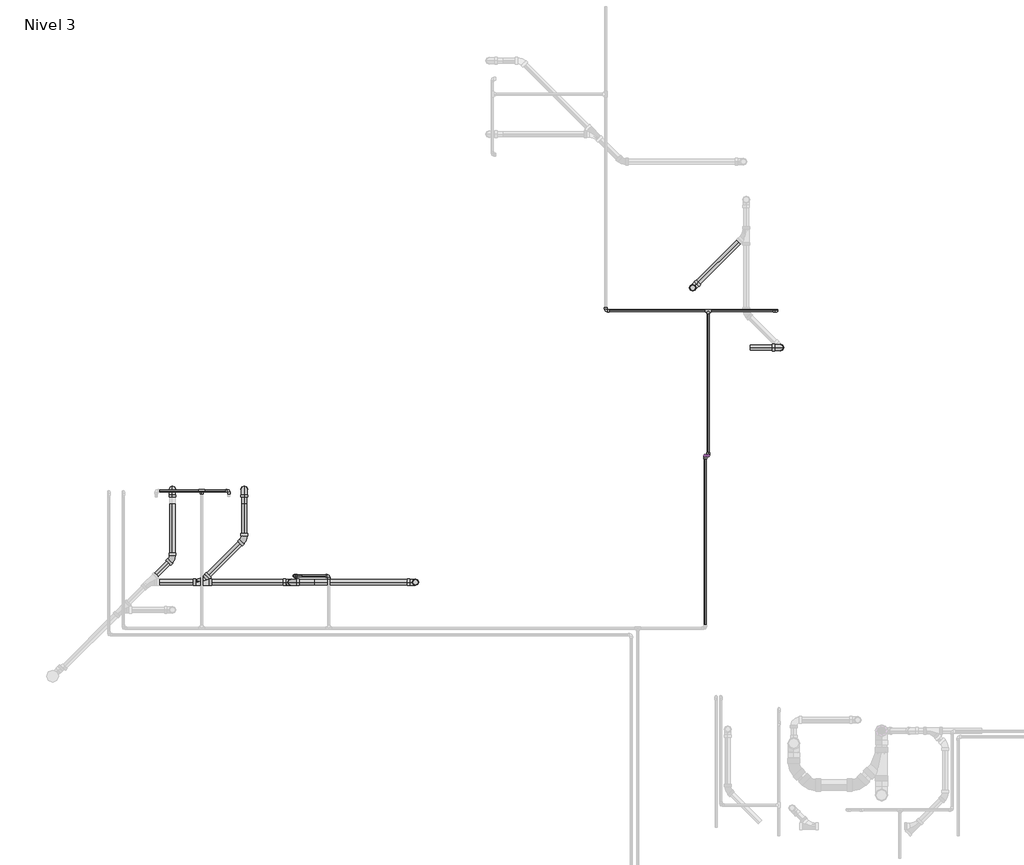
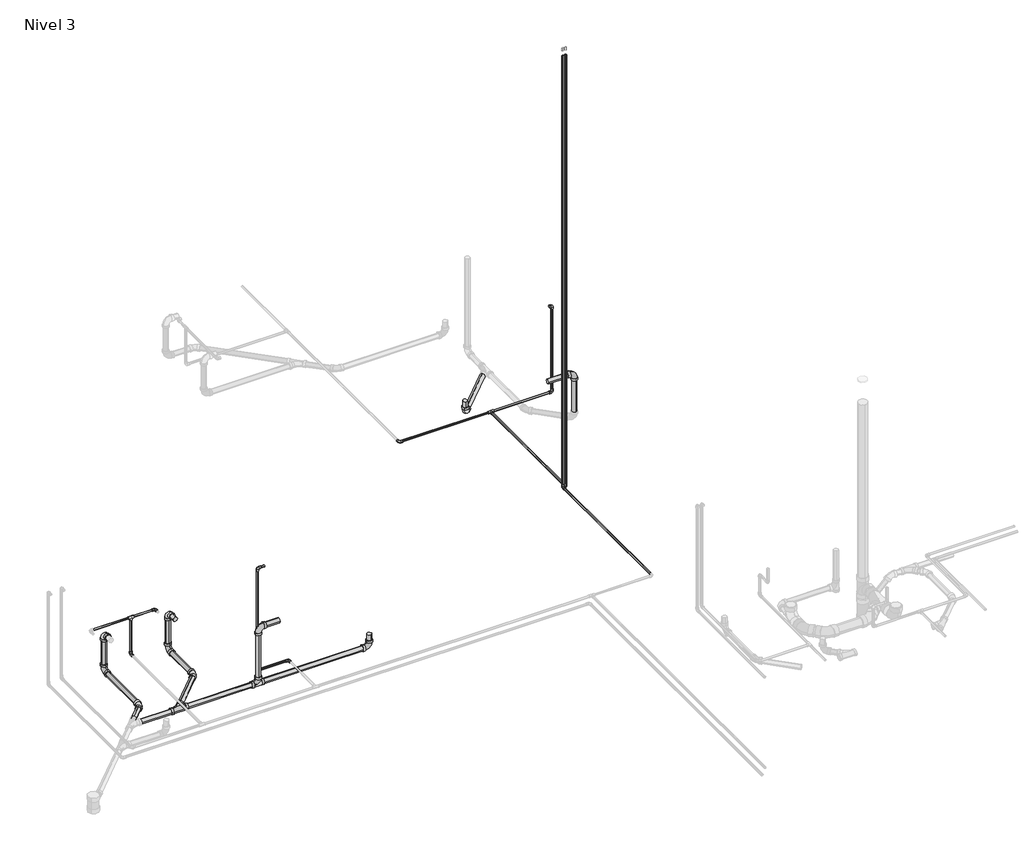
# One storey, part 5 of 9: 32 pipe segments, 24 pipe fittings.
"""IFC4 building model written with IfcOpenShell, lengths in millimetres."""

from ifc_helpers import new_model, si_unit, point, frame, frame_2d, origin, place, context, project, spatial, circle_curve, trimmed, segment, composite_curve, outline, extrude, transform, mapped, element, save
from components import pipe_fitting_ab418b84, pipe_fitting_0163322b, pipe_fitting_6ef1482d, m_codo_pvc_serie_40_9ad74631, m_codo_pvc_serie_40_dwv1_5c0ec739, m_codo_pvc_serie_40_dwv1_6f1a2495

model = new_model("IFC4")

# Units and contexts
model_context = context("Model", 3, world=origin())
ifc_project = project(units=[si_unit("LENGTHUNIT", "METRE", prefix="MILLI")], contexts=[model_context])

# Site, building, storey
site = spatial("IfcSite", under=ifc_project)
building = spatial("IfcBuilding", under=site)
storey = spatial("IfcBuildingStorey", under=building, Name="Nivel 3", Elevation=5450.0)

# Pipe fittings
placement = place(None, origin())
pipe_fitting_shape = pipe_fitting_ab418b84(model_context)
element("IfcPipeFitting", 1, ObjectType="M_Te - PVC - Serie 40 : Estándar", at=placement, inside=storey, context=model_context, shape_type="MappedRepresentation", body=[
    mapped(pipe_fitting_shape, transform((411.6630441, 9037.0181394, 5850.0), x_axis=(-1.0, 0.0, 0.0), y_axis=(0.0, 0.0, 1.0), z_axis=(0.0, 1.0, 0.0))),
])
element("IfcPipeFitting", 2, ObjectType="M_Te - PVC - Serie 40 : Estándar", at=placement, inside=storey, context=model_context, shape_type="MappedRepresentation", body=[
    mapped(pipe_fitting_shape, transform((5642.0674476, 10897.0181394, 5400.0), x_axis=(1.0, 0.0, 0.0), y_axis=(0.0, 1.0, 0.0), z_axis=(0.0, 0.0, 1.0))),
])
pipe_fitting_2_shape = pipe_fitting_0163322b(model_context)
element("IfcPipeFitting", 3, ObjectType="M_Sanitario con te de reducción - PVC - Serie 40 - DWV : Estándar", at=placement, inside=storey, context=model_context, shape_type="MappedRepresentation", body=[
    mapped(pipe_fitting_2_shape, transform((406.2028878, 8091.4220022, 5300.0), x_axis=(1.0, 0.0, 0.0), y_axis=(0.0, -1.0, 0.0), z_axis=(0.0, 0.0, -1.0))),
])
pipe_fitting_3_shape = pipe_fitting_6ef1482d(model_context)
element("IfcPipeFitting", 4, ObjectType="M_Sanitario con te de reducción - PVC - Serie 40 - DWV : Estándar", at=placement, inside=storey, context=model_context, shape_type="MappedRepresentation", body=[
    mapped(pipe_fitting_3_shape, transform((1335.9354338, 8091.4220022, 5300.0), x_axis=(1.0, 0.0, 0.0), y_axis=(0.0, 0.0, -1.0), z_axis=(0.0, 1.0, 0.0))),
])
m_codo_pvc_serie_40_shape = m_codo_pvc_serie_40_9ad74631(model_context)
element("IfcPipeFitting", 5, ObjectType="M_Codo - PVC - Serie 40 : Estándar", at=placement, inside=storey, context=model_context, shape_type="MappedRepresentation", body=[
    mapped(m_codo_pvc_serie_40_shape, transform((1725.1353284, 8157.0181394, 5400.0), x_axis=(0.0, 1.0, 0.0), y_axis=(-1.0, 0.0, 0.0), z_axis=(0.0, 0.0, 1.0))),
])
element("IfcPipeFitting", 6, ObjectType="M_Codo - PVC - Serie 40 : Estándar", at=placement, inside=storey, context=model_context, shape_type="MappedRepresentation", body=[
    mapped(m_codo_pvc_serie_40_shape, transform((1365.1353284, 8157.0181394, 5400.0), x_axis=(-1.0, 0.0, 0.0), y_axis=(0.0, 0.0, 1.0), z_axis=(0.0, 1.0, 0.0))),
])
element("IfcPipeFitting", 7, ObjectType="M_Codo - PVC - Serie 40 : Estándar", at=placement, inside=storey, context=model_context, shape_type="MappedRepresentation", body=[
    mapped(m_codo_pvc_serie_40_shape, transform((1365.1353284, 8157.0181394, 6650.0), x_axis=(0.0, 0.0, 1.0), y_axis=(1.0, 0.0, 0.0), z_axis=(0.0, 1.0, 0.0))),
])
element("IfcPipeFitting", 8, ObjectType="M_Codo - PVC - Serie 40 : Estándar", at=placement, inside=storey, context=model_context, shape_type="MappedRepresentation", body=[
    mapped(m_codo_pvc_serie_40_shape, transform((411.6630441, 9037.0181394, 5400.0), x_axis=(0.0, 1.0, 0.0), y_axis=(0.0, 0.0, 1.0), z_axis=(1.0, 0.0, 0.0))),
])
element("IfcPipeFitting", 9, ObjectType="M_Codo - PVC - Serie 40 : Estándar", at=placement, inside=storey, context=model_context, shape_type="MappedRepresentation", body=[
    mapped(m_codo_pvc_serie_40_shape, transform((691.6630441, 9037.0181394, 5850.0), x_axis=(0.0, 1.0, 0.0), y_axis=(-1.0, 0.0, 0.0), z_axis=(0.0, 0.0, 1.0))),
])
element("IfcPipeFitting", 10, ObjectType="M_Codo - PVC - Serie 40 : Estándar", at=placement, inside=storey, context=model_context, shape_type="MappedRepresentation", body=[
    mapped(m_codo_pvc_serie_40_shape, transform((4584.5674476, 10897.0181394, 5400.0), x_axis=(0.0, -1.0, 0.0), y_axis=(1.0, 0.0, 0.0), z_axis=(0.0, 0.0, 1.0))),
])
element("IfcPipeFitting", 11, ObjectType="M_Codo - PVC - Serie 40 : Estándar", at=placement, inside=storey, context=model_context, shape_type="MappedRepresentation", body=[
    mapped(m_codo_pvc_serie_40_shape, transform((6348.7776039, 10897.0181394, 5400.0), x_axis=(1.0, 0.0, 0.0), y_axis=(0.0, 0.0, 1.0), z_axis=(0.0, -1.0, 0.0))),
])
element("IfcPipeFitting", 12, ObjectType="M_Codo - PVC - Serie 40 : Estándar", at=placement, inside=storey, context=model_context, shape_type="MappedRepresentation", body=[
    mapped(m_codo_pvc_serie_40_shape, transform((6348.7776039, 10897.0181394, 6450.0), x_axis=(0.0, 0.0, 1.0), y_axis=(-1.0, 0.0, 0.0), z_axis=(0.0, -1.0, 0.0))),
])
element("IfcPipeFitting", 13, ObjectType="M_Codo - PVC - Serie 40 : Estándar", at=placement, inside=storey, context=model_context, shape_type="MappedRepresentation", body=[
    mapped(m_codo_pvc_serie_40_shape, transform((5611.6630441, 9399.5181394, 5400.0), x_axis=(0.0, 1.0, 0.0), y_axis=(0.0, 0.0, 1.0), z_axis=(1.0, 0.0, 0.0))),
])
element("IfcPipeFitting", 14, ObjectType="M_Codo - PVC - Serie 40 : Estándar", at=placement, inside=storey, context=model_context, shape_type="MappedRepresentation", body=[
    mapped(m_codo_pvc_serie_40_shape, transform((5642.0674476, 9399.5181394, 5400.0), x_axis=(0.0, -1.0, 0.0), y_axis=(0.0, 0.0, 1.0), z_axis=(-1.0, 0.0, 0.0))),
])
m_codo_pvc_serie_40_dwv1_shape = m_codo_pvc_serie_40_dwv1_5c0ec739(model_context)
element("IfcPipeFitting", 15, ObjectType="M_Codo - PVC - Serie 40 - DWV1 : Estándar 2", at=placement, inside=storey, context=model_context, shape_type="MappedRepresentation", body=[
    mapped(m_codo_pvc_serie_40_dwv1_shape, transform((6387.7966771, 10516.9594307, 5850.0), x_axis=(1.0, 0.0, 0.0), y_axis=(0.0, 0.0, -1.0), z_axis=(0.0, 1.0, 0.0))),
])
element("IfcPipeFitting", 16, ObjectType="M_Codo - PVC - Serie 40 - DWV1 : Estándar 2", at=placement, inside=storey, context=model_context, shape_type="MappedRepresentation", body=[
    mapped(m_codo_pvc_serie_40_dwv1_shape, transform((5482.7118337, 11133.8085879, 5300.0), x_axis=(-0.7071067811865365, -0.7071067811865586, 0.0), y_axis=(0.0, 0.0, 1.0), z_axis=(-0.7071067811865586, 0.7071067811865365, 0.0))),
])
element("IfcPipeFitting", 17, ObjectType="M_Codo - PVC - Serie 40 - DWV1 : Estándar 2", at=placement, inside=storey, context=model_context, shape_type="MappedRepresentation", body=[
    mapped(m_codo_pvc_serie_40_dwv1_shape, transform((109.5958692, 9052.7311146, 5750.0), x_axis=(0.0, 1.0, 0.0), y_axis=(0.0, 0.0, -1.0), z_axis=(-1.0, 0.0, 0.0))),
])
element("IfcPipeFitting", 18, ObjectType="M_Codo - PVC - Serie 40 - DWV1 : Estándar 2", at=placement, inside=storey, context=model_context, shape_type="MappedRepresentation", body=[
    mapped(m_codo_pvc_serie_40_dwv1_shape, transform((109.5958692, 9052.7311146, 5300.0), x_axis=(0.0, 0.0, -1.0), y_axis=(0.0, -1.0, 0.0), z_axis=(-1.0, 0.0, 0.0))),
])
element("IfcPipeFitting", 19, ObjectType="M_Codo - PVC - Serie 40 - DWV1 : Estándar 2", at=placement, inside=storey, context=model_context, shape_type="MappedRepresentation", body=[
    mapped(m_codo_pvc_serie_40_dwv1_shape, transform((849.5958692, 9052.7311146, 5750.0), x_axis=(0.0, 1.0, 0.0), y_axis=(0.0, 0.0, -1.0), z_axis=(-1.0, 0.0, 0.0))),
])
element("IfcPipeFitting", 20, ObjectType="M_Codo - PVC - Serie 40 - DWV1 : Estándar 2", at=placement, inside=storey, context=model_context, shape_type="MappedRepresentation", body=[
    mapped(m_codo_pvc_serie_40_dwv1_shape, transform((849.5958692, 9052.7311146, 5300.0), x_axis=(0.0, 0.0, -1.0), y_axis=(0.0, -1.0, 0.0), z_axis=(-1.0, 0.0, 0.0))),
])
element("IfcPipeFitting", 21, ObjectType="M_Codo - PVC - Serie 40 - DWV1 : Estándar 2", at=placement, inside=storey, context=model_context, shape_type="MappedRepresentation", body=[
    mapped(m_codo_pvc_serie_40_dwv1_shape, transform((1335.9354338, 8091.4220022, 5980.0), x_axis=(0.0, 0.0, 1.0), y_axis=(1.0, 0.0, 0.0), z_axis=(0.0, 1.0, 0.0))),
])
element("IfcPipeFitting", 22, ObjectType="M_Codo - PVC - Serie 40 - DWV1 : Estándar 2", at=placement, inside=storey, context=model_context, shape_type="MappedRepresentation", body=[
    mapped(m_codo_pvc_serie_40_dwv1_shape, transform((2619.133962, 8091.4220022, 5300.0), x_axis=(0.0, 0.0, -1.0), y_axis=(-1.0, 0.0, 0.0), z_axis=(0.0, 1.0, 0.0))),
])
m_codo_pvc_serie_40_dwv1_2_shape = m_codo_pvc_serie_40_dwv1_6f1a2495(model_context)
element("IfcPipeFitting", 23, ObjectType="M_Codo - PVC - Serie 40 - DWV1 : Estándar 2", at=placement, inside=storey, context=model_context, shape_type="MappedRepresentation", body=[
    mapped(m_codo_pvc_serie_40_dwv1_2_shape, transform((109.5958692, 8334.8149836, 5300.0), x_axis=(0.7071067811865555, 0.7071067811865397, 0.0), y_axis=(-0.7071067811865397, 0.7071067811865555, 0.0), z_axis=(0.0, 0.0, 1.0))),
])
element("IfcPipeFitting", 24, ObjectType="M_Codo - PVC - Serie 40 - DWV1 : Estándar 2", at=placement, inside=storey, context=model_context, shape_type="MappedRepresentation", body=[
    mapped(m_codo_pvc_serie_40_dwv1_2_shape, transform((849.5958692, 8534.8149836, 5300.0), x_axis=(0.7071067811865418, 0.7071067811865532, 0.0), y_axis=(-0.7071067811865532, 0.7071067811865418, 0.0), z_axis=(0.0, 0.0, 1.0))),
])

# Pipe segments
element("IfcPipeSegment", 25, ObjectType="Tuberia PVC Agua Fria", at=placement, inside=storey, context=model_context, shape_type="SweptSolid", body=[
    extrude(outline(composite_curve([segment(trimmed(circle_curve(frame_2d((5400.0, 5611.6630441)), 10.31875), [point((5400.0, 5621.9817941))], [point((5410.31875, 5611.6630441))], False, "CARTESIAN"), True, "CONTINUOUS"), segment(trimmed(circle_curve(frame_2d((5400.0, 5611.6630441)), 10.31875), [point((5410.31875, 5611.6630441))], [point((5400.0, 5601.3442941))], False, "CARTESIAN"), True, "CONTINUOUS"), segment(trimmed(circle_curve(frame_2d((5400.0, 5611.6630441)), 10.31875), [point((5400.0, 5601.3442941))], [point((5389.68125, 5611.6630441))], False, "CARTESIAN"), True, "CONTINUOUS"), segment(trimmed(circle_curve(frame_2d((5400.0, 5611.6630441)), 10.31875), [point((5389.68125, 5611.6630441))], [point((5400.0, 5621.9817941))], False, "CARTESIAN"), True, "CONTINUOUS")], self_intersect=False)), frame((0.0, 7650.4191394, 0.0), z_axis=(0.0, 1.0, 0.0), x_axis=(0.0, 0.0, 1.0)), (0.0, 0.0, 1.0), 1715.698),
])
element("IfcPipeSegment", 26, ObjectType="Tuberia PVC Agua Fria", at=placement, inside=storey, context=model_context, shape_type="SweptSolid", body=[
    extrude(outline(composite_curve([segment(trimmed(circle_curve(frame_2d((8157.0181394, 5400.0)), 10.31875), [point((8167.3368894, 5400.0))], [point((8157.0181394, 5389.68125))], False, "CARTESIAN"), True, "CONTINUOUS"), segment(trimmed(circle_curve(frame_2d((8157.0181394, 5400.0)), 10.31875), [point((8157.0181394, 5389.68125))], [point((8146.6993894, 5400.0))], False, "CARTESIAN"), True, "CONTINUOUS"), segment(trimmed(circle_curve(frame_2d((8157.0181394, 5400.0)), 10.31875), [point((8146.6993894, 5400.0))], [point((8157.0181394, 5410.31875))], False, "CARTESIAN"), True, "CONTINUOUS"), segment(trimmed(circle_curve(frame_2d((8157.0181394, 5400.0)), 10.31875), [point((8157.0181394, 5410.31875))], [point((8167.3368894, 5400.0))], False, "CARTESIAN"), True, "CONTINUOUS")], self_intersect=False)), frame((1398.5363284, 0.0, 0.0), z_axis=(1.0, 0.0, 0.0), x_axis=(0.0, 1.0, 0.0)), (0.0, 0.0, 1.0), 293.198),
])
element("IfcPipeSegment", 27, ObjectType="Tuberia PVC Agua Fria", at=placement, inside=storey, context=model_context, shape_type="SweptSolid", body=[
    extrude(outline(composite_curve([segment(trimmed(circle_curve(frame_2d((8157.0181394, 6650.0)), 10.31875), [point((8146.6993894, 6650.0))], [point((8157.0181394, 6660.31875))], False, "CARTESIAN"), True, "CONTINUOUS"), segment(trimmed(circle_curve(frame_2d((8157.0181394, 6650.0)), 10.31875), [point((8157.0181394, 6660.31875))], [point((8167.3368894, 6650.0))], False, "CARTESIAN"), True, "CONTINUOUS"), segment(trimmed(circle_curve(frame_2d((8157.0181394, 6650.0)), 10.31875), [point((8167.3368894, 6650.0))], [point((8157.0181394, 6639.68125))], False, "CARTESIAN"), True, "CONTINUOUS"), segment(trimmed(circle_curve(frame_2d((8157.0181394, 6650.0)), 10.31875), [point((8157.0181394, 6639.68125))], [point((8146.6993894, 6650.0))], False, "CARTESIAN"), True, "CONTINUOUS")], self_intersect=False)), frame((1398.5363284, 0.0, 0.0), z_axis=(1.0, 0.0, 0.0), x_axis=(0.0, 1.0, 0.0)), (0.0, 0.0, 1.0), 46.599),
])
element("IfcPipeSegment", 28, ObjectType="Tuberia PVC Agua Fria", at=placement, inside=storey, context=model_context, shape_type="SweptSolid", body=[
    extrude(outline(composite_curve([segment(trimmed(circle_curve(frame_2d((1365.1353284, 8157.0181394)), 10.31875), [point((1354.8165784, 8157.0181394))], [point((1365.1353284, 8167.3368894))], False, "CARTESIAN"), True, "CONTINUOUS"), segment(trimmed(circle_curve(frame_2d((1365.1353284, 8157.0181394)), 10.31875), [point((1365.1353284, 8167.3368894))], [point((1375.4540784, 8157.0181394))], False, "CARTESIAN"), True, "CONTINUOUS"), segment(trimmed(circle_curve(frame_2d((1365.1353284, 8157.0181394)), 10.31875), [point((1375.4540784, 8157.0181394))], [point((1365.1353284, 8146.6993894))], False, "CARTESIAN"), True, "CONTINUOUS"), segment(trimmed(circle_curve(frame_2d((1365.1353284, 8157.0181394)), 10.31875), [point((1365.1353284, 8146.6993894))], [point((1354.8165784, 8157.0181394))], False, "CARTESIAN"), True, "CONTINUOUS")], self_intersect=False)), frame((0.0, 0.0, 5433.401), z_axis=(0.0, 0.0, 1.0), x_axis=(1.0, 0.0, 0.0)), (0.0, 0.0, 1.0), 1183.198),
])
element("IfcPipeSegment", 29, ObjectType="Tuberia PVC Agua Fria", at=placement, inside=storey, context=model_context, shape_type="SweptSolid", body=[
    extrude(outline(composite_curve([segment(trimmed(circle_curve(frame_2d((9037.0181394, 5850.0)), 10.31875), [point((9026.6993894, 5850.0))], [point((9037.0181394, 5860.31875))], False, "CARTESIAN"), True, "CONTINUOUS"), segment(trimmed(circle_curve(frame_2d((9037.0181394, 5850.0)), 10.31875), [point((9037.0181394, 5860.31875))], [point((9047.3368894, 5850.0))], False, "CARTESIAN"), True, "CONTINUOUS"), segment(trimmed(circle_curve(frame_2d((9037.0181394, 5850.0)), 10.31875), [point((9047.3368894, 5850.0))], [point((9037.0181394, 5839.68125))], False, "CARTESIAN"), True, "CONTINUOUS"), segment(trimmed(circle_curve(frame_2d((9037.0181394, 5850.0)), 10.31875), [point((9037.0181394, 5839.68125))], [point((9026.6993894, 5850.0))], False, "CARTESIAN"), True, "CONTINUOUS")], self_intersect=False)), frame((442.1232003, 0.0, 0.0), z_axis=(1.0, 0.0, 0.0), x_axis=(0.0, 1.0, 0.0)), (0.0, 0.0, 1.0), 216.1388438),
])
element("IfcPipeSegment", 30, ObjectType="Tuberia PVC Agua Fria", at=placement, inside=storey, context=model_context, shape_type="SweptSolid", body=[
    extrude(outline(composite_curve([segment(trimmed(circle_curve(frame_2d((411.6630441, 9037.0181394)), 10.31875), [point((401.3442941, 9037.0181394))], [point((411.6630441, 9047.3368894))], False, "CARTESIAN"), True, "CONTINUOUS"), segment(trimmed(circle_curve(frame_2d((411.6630441, 9037.0181394)), 10.31875), [point((411.6630441, 9047.3368894))], [point((421.9817941, 9037.0181394))], False, "CARTESIAN"), True, "CONTINUOUS"), segment(trimmed(circle_curve(frame_2d((411.6630441, 9037.0181394)), 10.31875), [point((421.9817941, 9037.0181394))], [point((411.6630441, 9026.6993894))], False, "CARTESIAN"), True, "CONTINUOUS"), segment(trimmed(circle_curve(frame_2d((411.6630441, 9037.0181394)), 10.31875), [point((411.6630441, 9026.6993894))], [point((401.3442941, 9037.0181394))], False, "CARTESIAN"), True, "CONTINUOUS")], self_intersect=False)), frame((0.0, 0.0, 5433.401), z_axis=(0.0, 0.0, 1.0), x_axis=(1.0, 0.0, 0.0)), (0.0, 0.0, 1.0), 386.1388438),
])
element("IfcPipeSegment", 31, ObjectType="Tuberia PVC Agua Fria", at=placement, inside=storey, context=model_context, shape_type="SweptSolid", body=[
    extrude(outline(composite_curve([segment(trimmed(circle_curve(frame_2d((9037.0181394, 5850.0)), 10.31875), [point((9047.3368894, 5850.0))], [point((9037.0181394, 5839.68125))], False, "CARTESIAN"), True, "CONTINUOUS"), segment(trimmed(circle_curve(frame_2d((9037.0181394, 5850.0)), 10.31875), [point((9037.0181394, 5839.68125))], [point((9026.6993894, 5850.0))], False, "CARTESIAN"), True, "CONTINUOUS"), segment(trimmed(circle_curve(frame_2d((9037.0181394, 5850.0)), 10.31875), [point((9026.6993894, 5850.0))], [point((9037.0181394, 5860.31875))], False, "CARTESIAN"), True, "CONTINUOUS"), segment(trimmed(circle_curve(frame_2d((9037.0181394, 5850.0)), 10.31875), [point((9037.0181394, 5860.31875))], [point((9047.3368894, 5850.0))], False, "CARTESIAN"), True, "CONTINUOUS")], self_intersect=False)), frame((-25.3961122, 0.0, 0.0), z_axis=(1.0, 0.0, 0.0), x_axis=(0.0, 1.0, 0.0)), (0.0, 0.0, 1.0), 406.599),
])
element("IfcPipeSegment", 32, ObjectType="Tuberia PVC Agua Fria", at=placement, inside=storey, context=model_context, shape_type="SweptSolid", body=[
    extrude(outline(composite_curve([segment(trimmed(circle_curve(frame_2d((5400.0, 5642.0674476)), 10.31875), [point((5400.0, 5652.3861976))], [point((5410.31875, 5642.0674476))], False, "CARTESIAN"), True, "CONTINUOUS"), segment(trimmed(circle_curve(frame_2d((5400.0, 5642.0674476)), 10.31875), [point((5410.31875, 5642.0674476))], [point((5400.0, 5631.7486976))], False, "CARTESIAN"), True, "CONTINUOUS"), segment(trimmed(circle_curve(frame_2d((5400.0, 5642.0674476)), 10.31875), [point((5400.0, 5631.7486976))], [point((5389.68125, 5642.0674476))], False, "CARTESIAN"), True, "CONTINUOUS"), segment(trimmed(circle_curve(frame_2d((5400.0, 5642.0674476)), 10.31875), [point((5389.68125, 5642.0674476))], [point((5400.0, 5652.3861976))], False, "CARTESIAN"), True, "CONTINUOUS")], self_intersect=False)), frame((0.0, 9432.9191394, 0.0), z_axis=(0.0, 1.0, 0.0), x_axis=(0.0, 0.0, 1.0)), (0.0, 0.0, 1.0), 1433.6388438),
])
element("IfcPipeSegment", 33, ObjectType="Tuberia PVC Agua Fria", at=placement, inside=storey, context=model_context, shape_type="SweptSolid", body=[
    extrude(outline(composite_curve([segment(trimmed(circle_curve(frame_2d((10897.0181394, 5400.0)), 10.31875), [point((10907.3368894, 5400.0))], [point((10897.0181394, 5389.68125))], False, "CARTESIAN"), True, "CONTINUOUS"), segment(trimmed(circle_curve(frame_2d((10897.0181394, 5400.0)), 10.31875), [point((10897.0181394, 5389.68125))], [point((10886.6993894, 5400.0))], False, "CARTESIAN"), True, "CONTINUOUS"), segment(trimmed(circle_curve(frame_2d((10897.0181394, 5400.0)), 10.31875), [point((10886.6993894, 5400.0))], [point((10897.0181394, 5410.31875))], False, "CARTESIAN"), True, "CONTINUOUS"), segment(trimmed(circle_curve(frame_2d((10897.0181394, 5400.0)), 10.31875), [point((10897.0181394, 5410.31875))], [point((10907.3368894, 5400.0))], False, "CARTESIAN"), True, "CONTINUOUS")], self_intersect=False)), frame((4617.9684476, 0.0, 0.0), z_axis=(1.0, 0.0, 0.0), x_axis=(0.0, 1.0, 0.0)), (0.0, 0.0, 1.0), 993.6388438),
])
element("IfcPipeSegment", 34, ObjectType="Tuberia PVC Agua Fria", at=placement, inside=storey, context=model_context, shape_type="SweptSolid", body=[
    extrude(outline(composite_curve([segment(trimmed(circle_curve(frame_2d((10897.0181394, 5400.0)), 10.31875), [point((10886.6993894, 5400.0))], [point((10897.0181394, 5410.31875))], False, "CARTESIAN"), True, "CONTINUOUS"), segment(trimmed(circle_curve(frame_2d((10897.0181394, 5400.0)), 10.31875), [point((10897.0181394, 5410.31875))], [point((10907.3368894, 5400.0))], False, "CARTESIAN"), True, "CONTINUOUS"), segment(trimmed(circle_curve(frame_2d((10897.0181394, 5400.0)), 10.31875), [point((10907.3368894, 5400.0))], [point((10897.0181394, 5389.68125))], False, "CARTESIAN"), True, "CONTINUOUS"), segment(trimmed(circle_curve(frame_2d((10897.0181394, 5400.0)), 10.31875), [point((10897.0181394, 5389.68125))], [point((10886.6993894, 5400.0))], False, "CARTESIAN"), True, "CONTINUOUS")], self_intersect=False)), frame((5672.5276039, 0.0, 0.0), z_axis=(1.0, 0.0, 0.0), x_axis=(0.0, 1.0, 0.0)), (0.0, 0.0, 1.0), 642.849),
])
element("IfcPipeSegment", 35, ObjectType="Tuberia PVC Agua Fria", at=placement, inside=storey, context=model_context, shape_type="SweptSolid", body=[
    extrude(outline(composite_curve([segment(trimmed(circle_curve(frame_2d((6348.7776039, 10897.0181394)), 10.31875), [point((6338.4588539, 10897.0181394))], [point((6348.7776039, 10907.3368894))], False, "CARTESIAN"), True, "CONTINUOUS"), segment(trimmed(circle_curve(frame_2d((6348.7776039, 10897.0181394)), 10.31875), [point((6348.7776039, 10907.3368894))], [point((6359.0963539, 10897.0181394))], False, "CARTESIAN"), True, "CONTINUOUS"), segment(trimmed(circle_curve(frame_2d((6348.7776039, 10897.0181394)), 10.31875), [point((6359.0963539, 10897.0181394))], [point((6348.7776039, 10886.6993894))], False, "CARTESIAN"), True, "CONTINUOUS"), segment(trimmed(circle_curve(frame_2d((6348.7776039, 10897.0181394)), 10.31875), [point((6348.7776039, 10886.6993894))], [point((6338.4588539, 10897.0181394))], False, "CARTESIAN"), True, "CONTINUOUS")], self_intersect=False)), frame((0.0, 0.0, 5433.401), z_axis=(0.0, 0.0, 1.0), x_axis=(1.0, 0.0, 0.0)), (0.0, 0.0, 1.0), 983.198),
])
element("IfcPipeSegment", 36, ObjectType="Tuberia PVC Agua Fria", at=placement, inside=storey, context=model_context, shape_type="SweptSolid", body=[
    extrude(outline(composite_curve([segment(trimmed(circle_curve(frame_2d((5611.6630441, 9399.5181394)), 10.31875), [point((5601.3442941, 9399.5181394))], [point((5611.6630441, 9409.8368894))], False, "CARTESIAN"), True, "CONTINUOUS"), segment(trimmed(circle_curve(frame_2d((5611.6630441, 9399.5181394)), 10.31875), [point((5611.6630441, 9409.8368894))], [point((5621.9817941, 9399.5181394))], False, "CARTESIAN"), True, "CONTINUOUS"), segment(trimmed(circle_curve(frame_2d((5611.6630441, 9399.5181394)), 10.31875), [point((5621.9817941, 9399.5181394))], [point((5611.6630441, 9389.1993894))], False, "CARTESIAN"), True, "CONTINUOUS"), segment(trimmed(circle_curve(frame_2d((5611.6630441, 9399.5181394)), 10.31875), [point((5611.6630441, 9389.1993894))], [point((5601.3442941, 9399.5181394))], False, "CARTESIAN"), True, "CONTINUOUS")], self_intersect=False)), frame((0.0, 0.0, 10730.4601563), z_axis=(0.0, 0.0, 1.0), x_axis=(1.0, 0.0, 0.0)), (0.0, 0.0, 1.0), 30.7244062),
])
element("IfcPipeSegment", 37, ObjectType="Tuberia PVC Agua Fria", at=placement, inside=storey, context=model_context, shape_type="SweptSolid", body=[
    extrude(outline(composite_curve([segment(trimmed(circle_curve(frame_2d((5642.0674476, 9399.5181394)), 10.31875), [point((5631.7486976, 9399.5181394))], [point((5642.0674476, 9409.8368894))], False, "CARTESIAN"), True, "CONTINUOUS"), segment(trimmed(circle_curve(frame_2d((5642.0674476, 9399.5181394)), 10.31875), [point((5642.0674476, 9409.8368894))], [point((5652.3861976, 9399.5181394))], False, "CARTESIAN"), True, "CONTINUOUS"), segment(trimmed(circle_curve(frame_2d((5642.0674476, 9399.5181394)), 10.31875), [point((5652.3861976, 9399.5181394))], [point((5642.0674476, 9389.1993894))], False, "CARTESIAN"), True, "CONTINUOUS"), segment(trimmed(circle_curve(frame_2d((5642.0674476, 9399.5181394)), 10.31875), [point((5642.0674476, 9389.1993894))], [point((5631.7486976, 9399.5181394))], False, "CARTESIAN"), True, "CONTINUOUS")], self_intersect=False)), frame((0.0, 0.0, 10730.4601563), z_axis=(0.0, 0.0, 1.0), x_axis=(1.0, 0.0, 0.0)), (0.0, 0.0, 1.0), 30.7244062),
])
element("IfcPipeSegment", 38, ObjectType="Tuberia PVC Agua Fria", at=placement, inside=storey, context=model_context, shape_type="SweptSolid", body=[
    extrude(outline(composite_curve([segment(trimmed(circle_curve(frame_2d((5611.6630441, 9399.5181394)), 10.31875), [point((5601.3442941, 9399.5181394))], [point((5611.6630441, 9409.8368894))], False, "CARTESIAN"), True, "CONTINUOUS"), segment(trimmed(circle_curve(frame_2d((5611.6630441, 9399.5181394)), 10.31875), [point((5611.6630441, 9409.8368894))], [point((5621.9817941, 9399.5181394))], False, "CARTESIAN"), True, "CONTINUOUS"), segment(trimmed(circle_curve(frame_2d((5611.6630441, 9399.5181394)), 10.31875), [point((5621.9817941, 9399.5181394))], [point((5611.6630441, 9389.1993894))], False, "CARTESIAN"), True, "CONTINUOUS"), segment(trimmed(circle_curve(frame_2d((5611.6630441, 9399.5181394)), 10.31875), [point((5611.6630441, 9389.1993894))], [point((5601.3442941, 9399.5181394))], False, "CARTESIAN"), True, "CONTINUOUS")], self_intersect=False)), frame((0.0, 0.0, 5433.401), z_axis=(0.0, 0.0, 1.0), x_axis=(1.0, 0.0, 0.0)), (0.0, 0.0, 1.0), 5236.1388438),
])
element("IfcPipeSegment", 39, ObjectType="Tuberia PVC Agua Fria", at=placement, inside=storey, context=model_context, shape_type="SweptSolid", body=[
    extrude(outline(composite_curve([segment(trimmed(circle_curve(frame_2d((5642.0674476, 9399.5181394)), 10.31875), [point((5631.7486976, 9399.5181394))], [point((5642.0674476, 9409.8368894))], False, "CARTESIAN"), True, "CONTINUOUS"), segment(trimmed(circle_curve(frame_2d((5642.0674476, 9399.5181394)), 10.31875), [point((5642.0674476, 9409.8368894))], [point((5652.3861976, 9399.5181394))], False, "CARTESIAN"), True, "CONTINUOUS"), segment(trimmed(circle_curve(frame_2d((5642.0674476, 9399.5181394)), 10.31875), [point((5652.3861976, 9399.5181394))], [point((5642.0674476, 9389.1993894))], False, "CARTESIAN"), True, "CONTINUOUS"), segment(trimmed(circle_curve(frame_2d((5642.0674476, 9399.5181394)), 10.31875), [point((5642.0674476, 9389.1993894))], [point((5631.7486976, 9399.5181394))], False, "CARTESIAN"), True, "CONTINUOUS")], self_intersect=False)), frame((0.0, 0.0, 5433.401), z_axis=(0.0, 0.0, 1.0), x_axis=(1.0, 0.0, 0.0)), (0.0, 0.0, 1.0), 5236.1388438),
])
element("IfcPipeSegment", 40, ObjectType="Tuberia PVC Sanitario", at=placement, inside=storey, context=model_context, shape_type="SweptSolid", body=[
    extrude(outline(composite_curve([segment(trimmed(circle_curve(frame_2d((10516.9594307, 5850.0)), 26.9875), [point((10543.9469307, 5850.0))], [point((10516.9594307, 5823.0125))], False, "CARTESIAN"), True, "CONTINUOUS"), segment(trimmed(circle_curve(frame_2d((10516.9594307, 5850.0)), 26.9875), [point((10516.9594307, 5823.0125))], [point((10489.9719307, 5850.0))], False, "CARTESIAN"), True, "CONTINUOUS"), segment(trimmed(circle_curve(frame_2d((10516.9594307, 5850.0)), 26.9875), [point((10489.9719307, 5850.0))], [point((10516.9594307, 5876.9875))], False, "CARTESIAN"), True, "CONTINUOUS"), segment(trimmed(circle_curve(frame_2d((10516.9594307, 5850.0)), 26.9875), [point((10516.9594307, 5876.9875))], [point((10543.9469307, 5850.0))], False, "CARTESIAN"), True, "CONTINUOUS")], self_intersect=False)), frame((6077.7966771, 0.0, 0.0), z_axis=(1.0, 0.0, 0.0), x_axis=(0.0, 1.0, 0.0)), (0.0, 0.0, 1.0), 227.4579375),
])
element("IfcPipeSegment", 41, ObjectType="Tuberia PVC Sanitario", at=placement, inside=storey, context=model_context, shape_type="SweptSolid", body=[
    extrude(outline(composite_curve([segment(trimmed(circle_curve(frame_2d((6387.7966771, 10516.9594307)), 26.9875), [point((6414.7841771, 10516.9594307))], [point((6387.7966771, 10489.9719307))], False, "CARTESIAN"), True, "CONTINUOUS"), segment(trimmed(circle_curve(frame_2d((6387.7966771, 10516.9594307)), 26.9875), [point((6387.7966771, 10489.9719307))], [point((6360.8091771, 10516.9594307))], False, "CARTESIAN"), True, "CONTINUOUS"), segment(trimmed(circle_curve(frame_2d((6387.7966771, 10516.9594307)), 26.9875), [point((6360.8091771, 10516.9594307))], [point((6387.7966771, 10543.9469307))], False, "CARTESIAN"), True, "CONTINUOUS"), segment(trimmed(circle_curve(frame_2d((6387.7966771, 10516.9594307)), 26.9875), [point((6387.7966771, 10543.9469307))], [point((6414.7841771, 10516.9594307))], False, "CARTESIAN"), True, "CONTINUOUS")], self_intersect=False)), frame((0.0, 0.0, 5382.5420625), z_axis=(0.0, 0.0, 1.0), x_axis=(1.0, 0.0, 0.0)), (0.0, 0.0, 1.0), 384.915875),
])
element("IfcPipeSegment", 42, ObjectType="Tuberia PVC Sanitario", at=placement, inside=storey, context=model_context, shape_type="SweptSolid", body=[
    extrude(outline(composite_curve([segment(trimmed(circle_curve(frame_2d((0.0, -26.9875)), 26.9875), [point((-26.9875001, -26.9875))], [point((0.0, 0.0))], False, "CARTESIAN"), True, "CONTINUOUS"), segment(trimmed(circle_curve(frame_2d((0.0, -26.9875)), 26.9875), [point((0.0, 0.0))], [point((26.9874999, -26.9875))], False, "CARTESIAN"), True, "CONTINUOUS"), segment(trimmed(circle_curve(frame_2d((0.0, -26.9875)), 26.9875), [point((26.9874999, -26.9875))], [point((0.0, -53.975))], False, "CARTESIAN"), True, "CONTINUOUS"), segment(trimmed(circle_curve(frame_2d((0.0, -26.9875)), 26.9875), [point((0.0, -53.975))], [point((-26.9875001, -26.9875))], False, "CARTESIAN"), True, "CONTINUOUS")], self_intersect=False)), frame((5541.0778859, 11192.17464, 5273.0125), z_axis=(0.7071067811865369, 0.7071067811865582, 0.0), x_axis=(0.7071067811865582, -0.7071067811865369, 0.0)), (0.0, 0.0, 1.0), 588.6203308),
])
element("IfcPipeSegment", 43, ObjectType="Tuberia PVC Sanitario", at=placement, inside=storey, context=model_context, shape_type="SweptSolid", body=[
    extrude(outline(composite_curve([segment(trimmed(circle_curve(frame_2d((5482.7118337, 11133.8085879)), 26.9875), [point((5455.7243337, 11133.8085879))], [point((5482.7118337, 11160.7960879))], False, "CARTESIAN"), True, "CONTINUOUS"), segment(trimmed(circle_curve(frame_2d((5482.7118337, 11133.8085879)), 26.9875), [point((5482.7118337, 11160.7960879))], [point((5509.6993337, 11133.8085879))], False, "CARTESIAN"), True, "CONTINUOUS"), segment(trimmed(circle_curve(frame_2d((5482.7118337, 11133.8085879)), 26.9875), [point((5509.6993337, 11133.8085879))], [point((5482.7118337, 11106.8210879))], False, "CARTESIAN"), True, "CONTINUOUS"), segment(trimmed(circle_curve(frame_2d((5482.7118337, 11133.8085879)), 26.9875), [point((5482.7118337, 11106.8210879))], [point((5455.7243337, 11133.8085879))], False, "CARTESIAN"), True, "CONTINUOUS")], self_intersect=False)), frame((0.0, 0.0, 5382.5420625), z_axis=(0.0, 0.0, 1.0), x_axis=(1.0, 0.0, 0.0)), (0.0, 0.0, 1.0), 67.4579375),
])
element("IfcPipeSegment", 44, ObjectType="Tuberia PVC Sanitario", at=placement, inside=storey, context=model_context, shape_type="SweptSolid", body=[
    extrude(outline(composite_curve([segment(trimmed(circle_curve(frame_2d((5300.0, 109.5958692)), 26.9875), [point((5300.0, 82.6083692))], [point((5273.0125, 109.5958692))], False, "CARTESIAN"), True, "CONTINUOUS"), segment(trimmed(circle_curve(frame_2d((5300.0, 109.5958692)), 26.9875), [point((5273.0125, 109.5958692))], [point((5300.0, 136.5833692))], False, "CARTESIAN"), True, "CONTINUOUS"), segment(trimmed(circle_curve(frame_2d((5300.0, 109.5958692)), 26.9875), [point((5300.0, 136.5833692))], [point((5326.9875, 109.5958692))], False, "CARTESIAN"), True, "CONTINUOUS"), segment(trimmed(circle_curve(frame_2d((5300.0, 109.5958692)), 26.9875), [point((5326.9875, 109.5958692))], [point((5300.0, 82.6083692))], False, "CARTESIAN"), True, "CONTINUOUS")], self_intersect=False)), frame((0.0, 8395.2431711, 0.0), z_axis=(0.0, 1.0, 0.0), x_axis=(0.0, 0.0, 1.0)), (0.0, 0.0, 1.0), 574.945881),
])
element("IfcPipeSegment", 45, ObjectType="Tuberia PVC Sanitario", at=placement, inside=storey, context=model_context, shape_type="SweptSolid", body=[
    extrude(outline(composite_curve([segment(trimmed(circle_curve(frame_2d((109.5958692, 9052.7311146)), 26.9875), [point((136.5833692, 9052.7311146))], [point((109.5958692, 9025.7436146))], False, "CARTESIAN"), True, "CONTINUOUS"), segment(trimmed(circle_curve(frame_2d((109.5958692, 9052.7311146)), 26.9875), [point((109.5958692, 9025.7436146))], [point((82.6083692, 9052.7311146))], False, "CARTESIAN"), True, "CONTINUOUS"), segment(trimmed(circle_curve(frame_2d((109.5958692, 9052.7311146)), 26.9875), [point((82.6083692, 9052.7311146))], [point((109.5958692, 9079.7186146))], False, "CARTESIAN"), True, "CONTINUOUS"), segment(trimmed(circle_curve(frame_2d((109.5958692, 9052.7311146)), 26.9875), [point((109.5958692, 9079.7186146))], [point((136.5833692, 9052.7311146))], False, "CARTESIAN"), True, "CONTINUOUS")], self_intersect=False)), frame((0.0, 0.0, 5382.5420625), z_axis=(0.0, 0.0, 1.0), x_axis=(1.0, 0.0, 0.0)), (0.0, 0.0, 1.0), 284.915875),
])
element("IfcPipeSegment", 46, ObjectType="Tuberia PVC Sanitario", at=placement, inside=storey, context=model_context, shape_type="SweptSolid", body=[
    extrude(outline(composite_curve([segment(trimmed(circle_curve(frame_2d((5750.0, 849.5958692)), 26.9875), [point((5750.0, 876.5833692))], [point((5776.9875, 849.5958692))], False, "CARTESIAN"), True, "CONTINUOUS"), segment(trimmed(circle_curve(frame_2d((5750.0, 849.5958692)), 26.9875), [point((5776.9875, 849.5958692))], [point((5750.0, 822.6083692))], False, "CARTESIAN"), True, "CONTINUOUS"), segment(trimmed(circle_curve(frame_2d((5750.0, 849.5958692)), 26.9875), [point((5750.0, 822.6083692))], [point((5723.0125, 849.5958692))], False, "CARTESIAN"), True, "CONTINUOUS"), segment(trimmed(circle_curve(frame_2d((5750.0, 849.5958692)), 26.9875), [point((5723.0125, 849.5958692))], [point((5750.0, 876.5833692))], False, "CARTESIAN"), True, "CONTINUOUS")], self_intersect=False)), frame((0.0, 8907.7311146, 0.0), z_axis=(0.0, 1.0, 0.0), x_axis=(0.0, 0.0, 1.0)), (0.0, 0.0, 1.0), 62.4579375),
])
element("IfcPipeSegment", 47, ObjectType="Tuberia PVC Sanitario", at=placement, inside=storey, context=model_context, shape_type="SweptSolid", body=[
    extrude(outline(composite_curve([segment(trimmed(circle_curve(frame_2d((5300.0, 849.5958692)), 26.9875), [point((5300.0, 822.6083692))], [point((5273.0125, 849.5958692))], False, "CARTESIAN"), True, "CONTINUOUS"), segment(trimmed(circle_curve(frame_2d((5300.0, 849.5958692)), 26.9875), [point((5273.0125, 849.5958692))], [point((5300.0, 876.5833692))], False, "CARTESIAN"), True, "CONTINUOUS"), segment(trimmed(circle_curve(frame_2d((5300.0, 849.5958692)), 26.9875), [point((5300.0, 876.5833692))], [point((5326.9875, 849.5958692))], False, "CARTESIAN"), True, "CONTINUOUS"), segment(trimmed(circle_curve(frame_2d((5300.0, 849.5958692)), 26.9875), [point((5326.9875, 849.5958692))], [point((5300.0, 822.6083692))], False, "CARTESIAN"), True, "CONTINUOUS")], self_intersect=False)), frame((0.0, 8595.2431711, 0.0), z_axis=(0.0, 1.0, 0.0), x_axis=(0.0, 0.0, 1.0)), (0.0, 0.0, 1.0), 374.945881),
])
element("IfcPipeSegment", 48, ObjectType="Tuberia PVC Sanitario", at=placement, inside=storey, context=model_context, shape_type="SweptSolid", body=[
    extrude(outline(composite_curve([segment(trimmed(circle_curve(frame_2d((849.5958692, 9052.7311146)), 26.9875), [point((876.5833692, 9052.7311146))], [point((849.5958692, 9025.7436146))], False, "CARTESIAN"), True, "CONTINUOUS"), segment(trimmed(circle_curve(frame_2d((849.5958692, 9052.7311146)), 26.9875), [point((849.5958692, 9025.7436146))], [point((822.6083692, 9052.7311146))], False, "CARTESIAN"), True, "CONTINUOUS"), segment(trimmed(circle_curve(frame_2d((849.5958692, 9052.7311146)), 26.9875), [point((822.6083692, 9052.7311146))], [point((849.5958692, 9079.7186146))], False, "CARTESIAN"), True, "CONTINUOUS"), segment(trimmed(circle_curve(frame_2d((849.5958692, 9052.7311146)), 26.9875), [point((849.5958692, 9079.7186146))], [point((876.5833692, 9052.7311146))], False, "CARTESIAN"), True, "CONTINUOUS")], self_intersect=False)), frame((0.0, 0.0, 5382.5420625), z_axis=(0.0, 0.0, 1.0), x_axis=(1.0, 0.0, 0.0)), (0.0, 0.0, 1.0), 284.915875),
])
element("IfcPipeSegment", 49, ObjectType="Tuberia PVC Sanitario", at=placement, inside=storey, context=model_context, shape_type="SweptSolid", body=[
    extrude(outline(composite_curve([segment(trimmed(circle_curve(frame_2d((0.0, -26.9875)), 26.9875), [point((-26.9875001, -26.9875))], [point((0.0, 0.0))], False, "CARTESIAN"), True, "CONTINUOUS"), segment(trimmed(circle_curve(frame_2d((0.0, -26.9875)), 26.9875), [point((0.0, 0.0))], [point((26.9875, -26.9875))], False, "CARTESIAN"), True, "CONTINUOUS"), segment(trimmed(circle_curve(frame_2d((0.0, -26.9875)), 26.9875), [point((26.9875, -26.9875))], [point((0.0, -53.975))], False, "CARTESIAN"), True, "CONTINUOUS"), segment(trimmed(circle_curve(frame_2d((0.0, -26.9875)), 26.9875), [point((0.0, -53.975))], [point((-26.9875001, -26.9875))], False, "CARTESIAN"), True, "CONTINUOUS")], self_intersect=False)), frame((483.1626976, 8168.381812, 5273.0125), z_axis=(0.7071067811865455, 0.7071067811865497, 0.0), x_axis=(0.7071067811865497, -0.7071067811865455, 0.0)), (0.0, 0.0, 1.0), 457.7865734),
])
element("IfcPipeSegment", 50, ObjectType="Tuberia PVC Sanitario", at=placement, inside=storey, context=model_context, shape_type="SweptSolid", body=[
    extrude(outline(composite_curve([segment(trimmed(circle_curve(frame_2d((8091.4220022, 5300.0)), 26.9875), [point((8118.4095022, 5300.0))], [point((8091.4220022, 5273.0125))], False, "CARTESIAN"), True, "CONTINUOUS"), segment(trimmed(circle_curve(frame_2d((8091.4220022, 5300.0)), 26.9875), [point((8091.4220022, 5273.0125))], [point((8064.4345022, 5300.0))], False, "CARTESIAN"), True, "CONTINUOUS"), segment(trimmed(circle_curve(frame_2d((8091.4220022, 5300.0)), 26.9875), [point((8064.4345022, 5300.0))], [point((8091.4220022, 5326.9875))], False, "CARTESIAN"), True, "CONTINUOUS"), segment(trimmed(circle_curve(frame_2d((8091.4220022, 5300.0)), 26.9875), [point((8091.4220022, 5326.9875))], [point((8118.4095022, 5300.0))], False, "CARTESIAN"), True, "CONTINUOUS")], self_intersect=False)), frame((1393.1284233, 0.0, 0.0), z_axis=(1.0, 0.0, 0.0), x_axis=(0.0, 1.0, 0.0)), (0.0, 0.0, 1.0), 1143.4634763),
])
element("IfcPipeSegment", 51, ObjectType="Tuberia PVC Sanitario", at=placement, inside=storey, context=model_context, shape_type="SweptSolid", body=[
    extrude(outline(composite_curve([segment(trimmed(circle_curve(frame_2d((8091.4220022, 5300.0)), 26.9875), [point((8118.4095022, 5300.0))], [point((8091.4220022, 5273.0125))], False, "CARTESIAN"), True, "CONTINUOUS"), segment(trimmed(circle_curve(frame_2d((8091.4220022, 5300.0)), 26.9875), [point((8091.4220022, 5273.0125))], [point((8064.4345022, 5300.0))], False, "CARTESIAN"), True, "CONTINUOUS"), segment(trimmed(circle_curve(frame_2d((8091.4220022, 5300.0)), 26.9875), [point((8064.4345022, 5300.0))], [point((8091.4220022, 5326.9875))], False, "CARTESIAN"), True, "CONTINUOUS"), segment(trimmed(circle_curve(frame_2d((8091.4220022, 5300.0)), 26.9875), [point((8091.4220022, 5326.9875))], [point((8118.4095022, 5300.0))], False, "CARTESIAN"), True, "CONTINUOUS")], self_intersect=False)), frame((-24.9595055, 0.0, 0.0), z_axis=(1.0, 0.0, 0.0), x_axis=(0.0, 1.0, 0.0)), (0.0, 0.0, 1.0), 351.2279265),
])
element("IfcPipeSegment", 52, ObjectType="Tuberia PVC Sanitario", at=placement, inside=storey, context=model_context, shape_type="SweptSolid", body=[
    extrude(outline(composite_curve([segment(trimmed(circle_curve(frame_2d((0.0, -26.9875)), 26.9875), [point((-26.9875001, -26.9875))], [point((0.0, 0.0))], False, "CARTESIAN"), True, "CONTINUOUS"), segment(trimmed(circle_curve(frame_2d((0.0, -26.9875)), 26.9875), [point((0.0, 0.0))], [point((26.9875, -26.9875))], False, "CARTESIAN"), True, "CONTINUOUS"), segment(trimmed(circle_curve(frame_2d((0.0, -26.9875)), 26.9875), [point((26.9875, -26.9875))], [point((0.0, -53.975))], False, "CARTESIAN"), True, "CONTINUOUS"), segment(trimmed(circle_curve(frame_2d((0.0, -26.9875)), 26.9875), [point((0.0, -53.975))], [point((-26.9875001, -26.9875))], False, "CARTESIAN"), True, "CONTINUOUS")], self_intersect=False)), frame((-56.8373024, 8168.381812, 5273.0125), z_axis=(0.7071067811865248, 0.7071067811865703, 0.0), x_axis=(0.7071067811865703, -0.7071067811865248, 0.0)), (0.0, 0.0, 1.0), 174.943861),
])
element("IfcPipeSegment", 53, ObjectType="Tuberia PVC Sanitario", at=placement, inside=storey, context=model_context, shape_type="SweptSolid", body=[
    extrude(outline(composite_curve([segment(trimmed(circle_curve(frame_2d((2619.133962, 8091.4220022)), 26.9875), [point((2592.146462, 8091.4220022))], [point((2619.133962, 8118.4095022))], False, "CARTESIAN"), True, "CONTINUOUS"), segment(trimmed(circle_curve(frame_2d((2619.133962, 8091.4220022)), 26.9875), [point((2619.133962, 8118.4095022))], [point((2646.121462, 8091.4220022))], False, "CARTESIAN"), True, "CONTINUOUS"), segment(trimmed(circle_curve(frame_2d((2619.133962, 8091.4220022)), 26.9875), [point((2646.121462, 8091.4220022))], [point((2619.133962, 8064.4345022))], False, "CARTESIAN"), True, "CONTINUOUS"), segment(trimmed(circle_curve(frame_2d((2619.133962, 8091.4220022)), 26.9875), [point((2619.133962, 8064.4345022))], [point((2592.146462, 8091.4220022))], False, "CARTESIAN"), True, "CONTINUOUS")], self_intersect=False)), frame((0.0, 0.0, 5382.5420625), z_axis=(0.0, 0.0, 1.0), x_axis=(1.0, 0.0, 0.0)), (0.0, 0.0, 1.0), 67.4579375),
])
element("IfcPipeSegment", 54, ObjectType="Tuberia PVC Sanitario", at=placement, inside=storey, context=model_context, shape_type="SweptSolid", body=[
    extrude(outline(composite_curve([segment(trimmed(circle_curve(frame_2d((1335.9354338, 8091.4220022)), 26.9875), [point((1308.9479338, 8091.4220022))], [point((1335.9354338, 8118.4095022))], False, "CARTESIAN"), True, "CONTINUOUS"), segment(trimmed(circle_curve(frame_2d((1335.9354338, 8091.4220022)), 26.9875), [point((1335.9354338, 8118.4095022))], [point((1362.9229338, 8091.4220022))], False, "CARTESIAN"), True, "CONTINUOUS"), segment(trimmed(circle_curve(frame_2d((1335.9354338, 8091.4220022)), 26.9875), [point((1362.9229338, 8091.4220022))], [point((1335.9354338, 8064.4345022))], False, "CARTESIAN"), True, "CONTINUOUS"), segment(trimmed(circle_curve(frame_2d((1335.9354338, 8091.4220022)), 26.9875), [point((1335.9354338, 8064.4345022))], [point((1308.9479338, 8091.4220022))], False, "CARTESIAN"), True, "CONTINUOUS")], self_intersect=False)), frame((0.0, 0.0, 5381.7919688), z_axis=(0.0, 0.0, 1.0), x_axis=(1.0, 0.0, 0.0)), (0.0, 0.0, 1.0), 515.6659687),
])
element("IfcPipeSegment", 55, ObjectType="Tuberia PVC Sanitario", at=placement, inside=storey, context=model_context, shape_type="SweptSolid", body=[
    extrude(outline(composite_curve([segment(trimmed(circle_curve(frame_2d((8091.4220022, 5300.0)), 26.9875), [point((8118.4095022, 5300.0))], [point((8091.4220022, 5273.0125))], False, "CARTESIAN"), True, "CONTINUOUS"), segment(trimmed(circle_curve(frame_2d((8091.4220022, 5300.0)), 26.9875), [point((8091.4220022, 5273.0125))], [point((8064.4345022, 5300.0))], False, "CARTESIAN"), True, "CONTINUOUS"), segment(trimmed(circle_curve(frame_2d((8091.4220022, 5300.0)), 26.9875), [point((8064.4345022, 5300.0))], [point((8091.4220022, 5326.9875))], False, "CARTESIAN"), True, "CONTINUOUS"), segment(trimmed(circle_curve(frame_2d((8091.4220022, 5300.0)), 26.9875), [point((8091.4220022, 5326.9875))], [point((8118.4095022, 5300.0))], False, "CARTESIAN"), True, "CONTINUOUS")], self_intersect=False)), frame((515.0404945, 0.0, 0.0), z_axis=(1.0, 0.0, 0.0), x_axis=(0.0, 1.0, 0.0)), (0.0, 0.0, 1.0), 740.9604725),
])
element("IfcPipeSegment", 56, ObjectType="Tuberia PVC Sanitario", at=placement, inside=storey, context=model_context, shape_type="SweptSolid", body=[
    extrude(outline(composite_curve([segment(trimmed(circle_curve(frame_2d((8091.4220022, 5980.0)), 26.9875), [point((8064.4345022, 5980.0))], [point((8091.4220022, 6006.9875))], False, "CARTESIAN"), True, "CONTINUOUS"), segment(trimmed(circle_curve(frame_2d((8091.4220022, 5980.0)), 26.9875), [point((8091.4220022, 6006.9875))], [point((8118.4095022, 5980.0))], False, "CARTESIAN"), True, "CONTINUOUS"), segment(trimmed(circle_curve(frame_2d((8091.4220022, 5980.0)), 26.9875), [point((8118.4095022, 5980.0))], [point((8091.4220022, 5953.0125))], False, "CARTESIAN"), True, "CONTINUOUS"), segment(trimmed(circle_curve(frame_2d((8091.4220022, 5980.0)), 26.9875), [point((8091.4220022, 5953.0125))], [point((8064.4345022, 5980.0))], False, "CARTESIAN"), True, "CONTINUOUS")], self_intersect=False)), frame((1418.4774963, 0.0, 0.0), z_axis=(1.0, 0.0, 0.0), x_axis=(0.0, 1.0, 0.0)), (0.0, 0.0, 1.0), 157.4579375),
])

save(model, "model.ifc")
